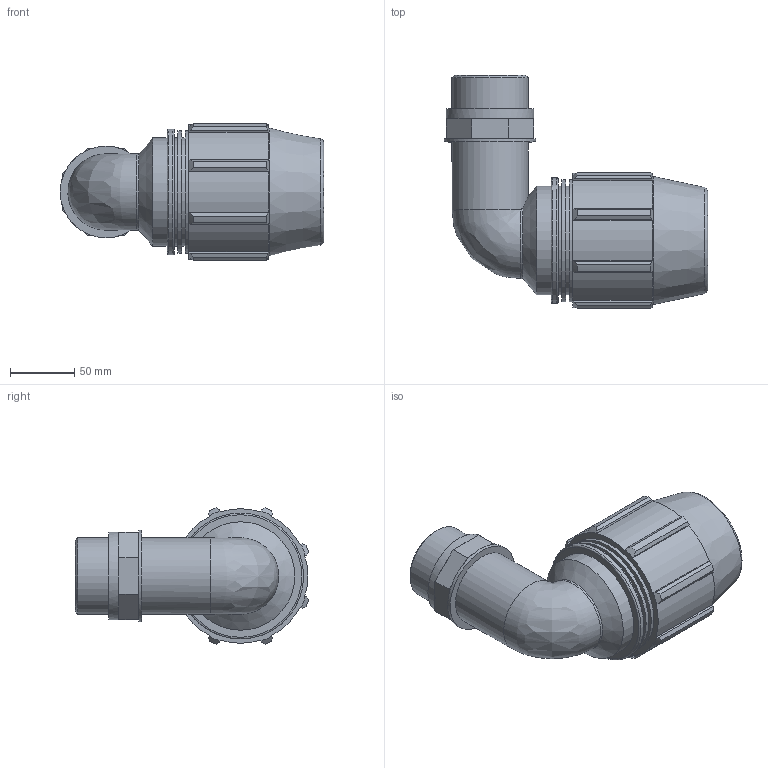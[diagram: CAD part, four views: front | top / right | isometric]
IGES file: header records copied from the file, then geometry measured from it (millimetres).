
Global section: file name: 077700063020_187700063020_0777060630200A.ipt; native system: Autodesk Inventor 2015; preprocessor: unknown; author: KIM; date: 20170622.103118; units: millimetre
Bounding box: 205.77 x 182.16 x 106.32 mm (x, y, z)
Volume: 900127 mm3; surface area: 139286.3 mm2
Topology: 1 solids, 1 shells, 125 faces, 320 edges, 205 vertices
Faces by surface type: plane 76, cylinder 27, cone 12, revolution 9, bspline 1
Full cylindrical faces by diameter (mm): 59.614 x2, 68.556 x1, 71.537 x1, 84.75 x3, 95.361 x2, 98.31 x1
